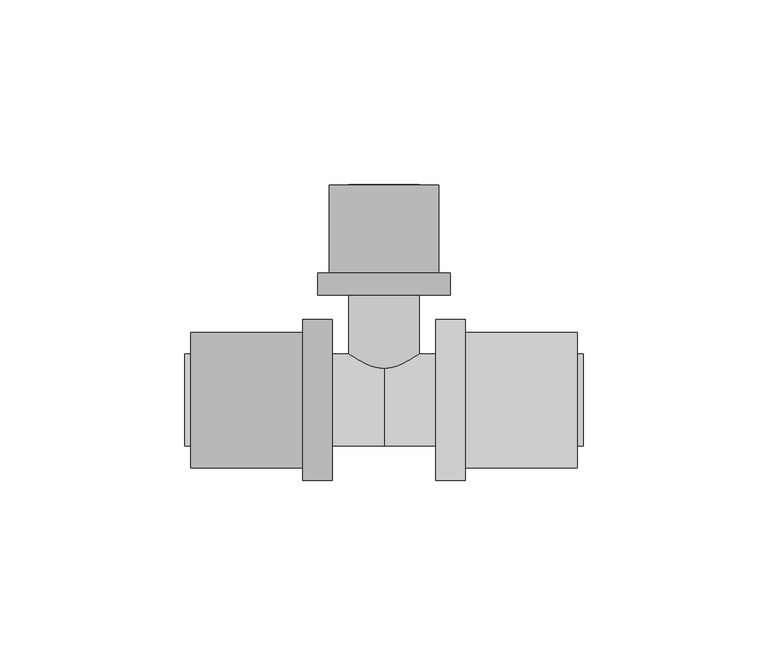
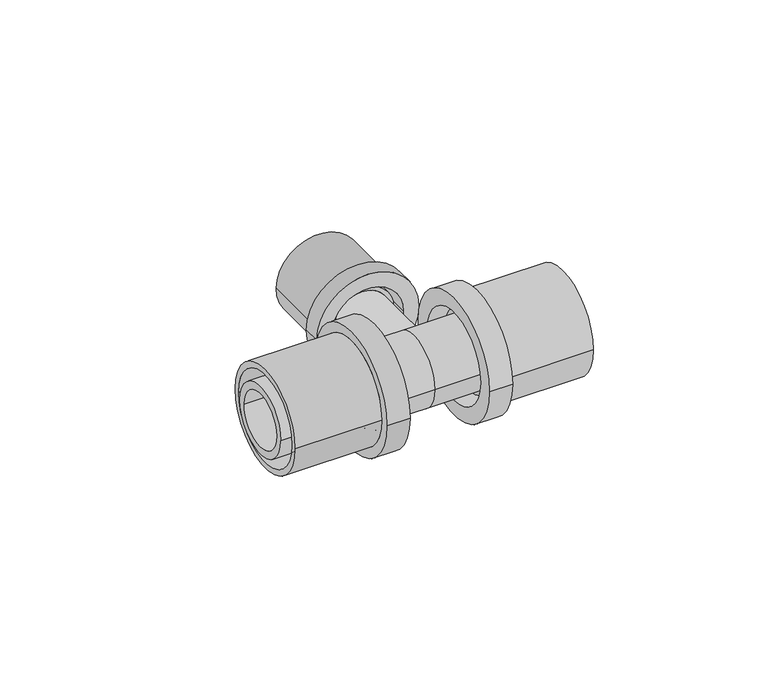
"""IFC4 building model written with IfcOpenShell, lengths in millimetres: pipe fitting geometry, FASTLOC_T-piece_EX+ : FSL T-Piece EX+ AT."""

from ifc_helpers import new_model, si_unit, frame, origin, place, context, project, spatial, polyline, circle_curve, source, transform, mapped, element, save
from ifc_brep_helpers import plane_surface, cylinder_surface, revolved_surface, advanced_brep


def pipe_fitting_29655fe2(model_context):
    return source(origin(), model_context, "Body", "AdvancedBrep", [
        advanced_brep(
        [(22.0, 21.8, 0.0), (22.0, -21.8, 0.0), (14.0, -21.8, 0.0), (14.0, 21.8, 0.0), (52.3, 18.35, 0.0), (52.3, -18.35, 0.0), (22.0, -18.35, 0.0), (22.0, 18.35, 0.0), (14.0, 16.2, 0.0), (14.0, -16.2, 0.0), (52.3, -16.2, 0.0), (52.3, 16.2, 0.0)],
        [
            (0, 1, circle_curve(frame((22.0, 0.0, 0.0), z_axis=(-1.0, 0.0, 0.0), x_axis=(0.0, -1.0, 0.0)), 21.8)),
            (1, 2),
            (2, 3, circle_curve(frame((14.0, 0.0, 0.0), z_axis=(1.0, 0.0, 0.0), x_axis=(0.0, -1.0, 0.0)), 21.8)),
            (3, 0),
            (4, 5, circle_curve(frame((52.3, 0.0, 0.0), z_axis=(-1.0, 0.0, 0.0), x_axis=(0.0, -1.0, 0.0)), 18.35)),
            (5, 6),
            (6, 7, circle_curve(frame((22.0, 0.0, 0.0), z_axis=(1.0, 0.0, 0.0), x_axis=(0.0, -1.0, 0.0)), 18.35)),
            (7, 4),
            (8, 9, circle_curve(frame((14.0, 0.0, 0.0), z_axis=(-1.0, 0.0, 0.0), x_axis=(0.0, -1.0, 0.0)), 16.2)),
            (9, 10),
            (10, 11, circle_curve(frame((52.3, 0.0, 0.0), z_axis=(1.0, 0.0, 0.0), x_axis=(0.0, -1.0, 0.0)), 16.2)),
            (11, 8),
            (1, 0, circle_curve(frame((22.0, 0.0, 0.0), z_axis=(-1.0, 0.0, 0.0), x_axis=(0.0, 1.0, 0.0)), 21.8)),
            (3, 2, circle_curve(frame((14.0, 0.0, 0.0), z_axis=(1.0, 0.0, 0.0), x_axis=(0.0, 1.0, 0.0)), 21.8)),
            (6, 7, circle_curve(frame((22.0, 0.0, 0.0), z_axis=(-1.0, 0.0, 0.0), x_axis=(0.0, 1.0, 0.0)), 18.35)),
            (5, 4, circle_curve(frame((52.3, 0.0, 0.0), z_axis=(-1.0, 0.0, 0.0), x_axis=(0.0, 1.0, 0.0)), 18.35)),
            (10, 11, circle_curve(frame((52.3, 0.0, 0.0), z_axis=(-1.0, 0.0, 0.0), x_axis=(0.0, 1.0, 0.0)), 16.2)),
            (9, 8, circle_curve(frame((14.0, 0.0, 0.0), z_axis=(-1.0, 0.0, 0.0), x_axis=(0.0, 1.0, 0.0)), 16.2)),
        ],
        [
            cylinder_surface(frame((14.0, 0.0, 0.0), z_axis=(1.0, 0.0, 0.0), x_axis=(0.0, -1.0, 0.0)), 21.8),
            cylinder_surface(frame((14.0, 0.0, 0.0), z_axis=(1.0, 0.0, 0.0), x_axis=(0.0, -1.0, 0.0)), 18.35),
            revolved_surface(polyline([(52.3, -16.2, 0.0), (14.0, -16.2, 0.0)]), (14.0, 0.0, 0.0), (1.0, 0.0, 0.0)),
            cylinder_surface(frame((14.0, 0.0, 0.0), z_axis=(1.0, 0.0, 0.0), x_axis=(0.0, 1.0, 0.0)), 21.8),
            plane_surface(frame((22.0, 0.0, 0.0), z_axis=(1.0, 0.0, 0.0), x_axis=(0.0, 1.0, 0.0))),
            cylinder_surface(frame((14.0, 0.0, 0.0), z_axis=(1.0, 0.0, 0.0), x_axis=(0.0, 1.0, 0.0)), 18.35),
            plane_surface(frame((52.3, 0.0, 0.0), z_axis=(1.0, 0.0, 0.0), x_axis=(0.0, 1.0, 0.0))),
            revolved_surface(polyline([(52.3, 16.2, 0.0), (14.0, 16.2, 0.0)]), (14.0, 0.0, 0.0), (1.0, 0.0, 0.0)),
            plane_surface(frame((14.0, 0.0, 0.0), z_axis=(-1.0, 0.0, 0.0), x_axis=(0.0, 1.0, 0.0))),
        ],
        [
            (0, [[1, 2, 3, 4]]),
            (1, [[5, 6, 7, 8]]),
            (2, [[9, 10, 11, 12]]),
            (3, [[13, -4, 14, -2]]),
            (4, [[-13, -1], [15, -7]]),
            (5, [[16, -8, -15, -6]]),
            (6, [[-16, -5], [17, -11]]),
            (7, [[18, -12, -17, -10]]),
            (8, [[-14, -3], [-18, -9]]),
        ],
    ),
        advanced_brep(
        [(-22.0, -21.8, 0.0), (-22.0, 21.8, 0.0), (-14.0, 21.8, 0.0), (-14.0, -21.8, 0.0), (-52.3, -18.35, 0.0), (-52.3, 18.35, 0.0), (-22.0, 18.35, 0.0), (-22.0, -18.35, 0.0), (-14.0, -16.2, 0.0), (-14.0, 16.2, 0.0), (-52.3, 16.2, 0.0), (-52.3, -16.2, 0.0)],
        [
            (0, 1, circle_curve(frame((-22.0, 0.0, 0.0), z_axis=(1.0, 0.0, 0.0), x_axis=(0.0, 1.0, 0.0)), 21.8)),
            (1, 2),
            (2, 3, circle_curve(frame((-14.0, 0.0, 0.0), z_axis=(-1.0, 0.0, 0.0), x_axis=(0.0, 1.0, 0.0)), 21.8)),
            (3, 0),
            (4, 5, circle_curve(frame((-52.3, 0.0, 0.0), z_axis=(1.0, 0.0, 0.0), x_axis=(0.0, 1.0, 0.0)), 18.35)),
            (5, 6),
            (6, 7, circle_curve(frame((-22.0, 0.0, 0.0), z_axis=(-1.0, 0.0, 0.0), x_axis=(0.0, 1.0, 0.0)), 18.35)),
            (7, 4),
            (8, 9, circle_curve(frame((-14.0, 0.0, 0.0), z_axis=(1.0, 0.0, 0.0), x_axis=(0.0, 1.0, 0.0)), 16.2)),
            (9, 10),
            (10, 11, circle_curve(frame((-52.3, 0.0, 0.0), z_axis=(-1.0, 0.0, 0.0), x_axis=(0.0, 1.0, 0.0)), 16.2)),
            (11, 8),
            (1, 0, circle_curve(frame((-22.0, 0.0, 0.0), z_axis=(1.0, 0.0, 0.0), x_axis=(0.0, -1.0, 0.0)), 21.8)),
            (3, 2, circle_curve(frame((-14.0, 0.0, 0.0), z_axis=(-1.0, 0.0, 0.0), x_axis=(0.0, -1.0, 0.0)), 21.8)),
            (6, 7, circle_curve(frame((-22.0, 0.0, 0.0), z_axis=(1.0, 0.0, 0.0), x_axis=(0.0, -1.0, 0.0)), 18.35)),
            (5, 4, circle_curve(frame((-52.3, 0.0, 0.0), z_axis=(1.0, 0.0, 0.0), x_axis=(0.0, -1.0, 0.0)), 18.35)),
            (10, 11, circle_curve(frame((-52.3, 0.0, 0.0), z_axis=(1.0, 0.0, 0.0), x_axis=(0.0, -1.0, 0.0)), 16.2)),
            (9, 8, circle_curve(frame((-14.0, 0.0, 0.0), z_axis=(1.0, 0.0, 0.0), x_axis=(0.0, -1.0, 0.0)), 16.2)),
        ],
        [
            cylinder_surface(frame((-14.0, 0.0, 0.0), z_axis=(-1.0, 0.0, 0.0), x_axis=(0.0, 1.0, 0.0)), 21.8),
            cylinder_surface(frame((-14.0, 0.0, 0.0), z_axis=(-1.0, 0.0, 0.0), x_axis=(0.0, 1.0, 0.0)), 18.35),
            revolved_surface(polyline([(-52.3, 16.2, 0.0), (-14.0, 16.2, 0.0)]), (-14.0, 0.0, 0.0), (-1.0, 0.0, 0.0)),
            cylinder_surface(frame((-14.0, 0.0, 0.0), z_axis=(-1.0, 0.0, 0.0), x_axis=(0.0, -1.0, 0.0)), 21.8),
            plane_surface(frame((-22.0, 0.0, 0.0), z_axis=(-1.0, 0.0, 0.0), x_axis=(0.0, -1.0, 0.0))),
            cylinder_surface(frame((-14.0, 0.0, 0.0), z_axis=(-1.0, 0.0, 0.0), x_axis=(0.0, -1.0, 0.0)), 18.35),
            plane_surface(frame((-52.3, 0.0, 0.0), z_axis=(-1.0, 0.0, 0.0), x_axis=(0.0, -1.0, 0.0))),
            revolved_surface(polyline([(-52.3, -16.2, 0.0), (-14.0, -16.2, 0.0)]), (-14.0, 0.0, 0.0), (-1.0, 0.0, 0.0)),
            plane_surface(frame((-14.0, 0.0, 0.0), z_axis=(1.0, 0.0, 0.0), x_axis=(0.0, -1.0, 0.0))),
        ],
        [
            (0, [[1, 2, 3, 4]]),
            (1, [[5, 6, 7, 8]]),
            (2, [[9, 10, 11, 12]]),
            (3, [[13, -4, 14, -2]]),
            (4, [[-13, -1], [15, -7]]),
            (5, [[16, -8, -15, -6]]),
            (6, [[-16, -5], [17, -11]]),
            (7, [[18, -12, -17, -10]]),
            (8, [[-14, -3], [-18, -9]]),
        ],
    ),
        advanced_brep(
        [(-18.0, 34.4, 0.0), (18.0, 34.4, 0.0), (18.0, 28.4, 0.0), (-18.0, 28.4, 0.0), (-14.85, 58.2, 0.0), (14.85, 58.2, 0.0), (14.85, 34.4, 0.0), (-14.85, 34.4, 0.0), (-12.65, 28.4, 0.0), (12.65, 28.4, 0.0), (12.65, 58.2, 0.0), (-12.65, 58.2, 0.0)],
        [
            (0, 1, circle_curve(frame((0.0, 34.4, 0.0), z_axis=(0.0, -1.0, 0.0), x_axis=(1.0, 0.0, 0.0)), 18.0)),
            (1, 2),
            (2, 3, circle_curve(frame((0.0, 28.4, 0.0), z_axis=(0.0, 1.0, 0.0), x_axis=(1.0, 0.0, 0.0)), 18.0)),
            (3, 0),
            (4, 5, circle_curve(frame((0.0, 58.2, 0.0), z_axis=(0.0, -1.0, 0.0), x_axis=(1.0, 0.0, 0.0)), 14.85)),
            (5, 6),
            (6, 7, circle_curve(frame((0.0, 34.4, 0.0), z_axis=(0.0, 1.0, 0.0), x_axis=(1.0, 0.0, 0.0)), 14.85)),
            (7, 4),
            (8, 9, circle_curve(frame((0.0, 28.4, 0.0), z_axis=(0.0, -1.0, 0.0), x_axis=(1.0, 0.0, 0.0)), 12.65)),
            (9, 10),
            (10, 11, circle_curve(frame((0.0, 58.2, 0.0), z_axis=(0.0, 1.0, 0.0), x_axis=(1.0, 0.0, 0.0)), 12.65)),
            (11, 8),
            (1, 0, circle_curve(frame((0.0, 34.4, 0.0), z_axis=(0.0, -1.0, 0.0), x_axis=(-1.0, 0.0, 0.0)), 18.0)),
            (3, 2, circle_curve(frame((0.0, 28.4, 0.0), z_axis=(0.0, 1.0, 0.0), x_axis=(-1.0, 0.0, 0.0)), 18.0)),
            (6, 7, circle_curve(frame((0.0, 34.4, 0.0), z_axis=(0.0, -1.0, 0.0), x_axis=(-1.0, 0.0, 0.0)), 14.85)),
            (5, 4, circle_curve(frame((0.0, 58.2, 0.0), z_axis=(0.0, -1.0, 0.0), x_axis=(-1.0, 0.0, 0.0)), 14.85)),
            (10, 11, circle_curve(frame((0.0, 58.2, 0.0), z_axis=(0.0, -1.0, 0.0), x_axis=(-1.0, 0.0, 0.0)), 12.65)),
            (9, 8, circle_curve(frame((0.0, 28.4, 0.0), z_axis=(0.0, -1.0, 0.0), x_axis=(-1.0, 0.0, 0.0)), 12.65)),
        ],
        [
            cylinder_surface(frame((0.0, 28.4, 0.0), z_axis=(0.0, 1.0, 0.0), x_axis=(1.0, 0.0, 0.0)), 18.0),
            cylinder_surface(frame((0.0, 28.4, 0.0), z_axis=(0.0, 1.0, 0.0), x_axis=(1.0, 0.0, 0.0)), 14.85),
            revolved_surface(polyline([(12.65, 58.2, 0.0), (12.65, 28.4, 0.0)]), (0.0, 28.4, 0.0), (0.0, 1.0, 0.0)),
            cylinder_surface(frame((0.0, 28.4, 0.0), z_axis=(0.0, 1.0, 0.0), x_axis=(-1.0, 0.0, 0.0)), 18.0),
            plane_surface(frame((0.0, 34.4, 0.0), z_axis=(0.0, 1.0, 0.0), x_axis=(-1.0, 0.0, 0.0))),
            cylinder_surface(frame((0.0, 28.4, 0.0), z_axis=(0.0, 1.0, 0.0), x_axis=(-1.0, 0.0, 0.0)), 14.85),
            plane_surface(frame((0.0, 58.2, 0.0), z_axis=(0.0, 1.0, 0.0), x_axis=(-1.0, 0.0, 0.0))),
            revolved_surface(polyline([(-12.65, 58.2, 0.0), (-12.65, 28.4, 0.0)]), (0.0, 28.4, 0.0), (0.0, 1.0, 0.0)),
            plane_surface(frame((0.0, 28.4, 0.0), z_axis=(0.0, -1.0, 0.0), x_axis=(-1.0, 0.0, 0.0))),
        ],
        [
            (0, [[1, 2, 3, 4]]),
            (1, [[5, 6, 7, 8]]),
            (2, [[9, 10, 11, 12]]),
            (3, [[13, -4, 14, -2]]),
            (4, [[-13, -1], [15, -7]]),
            (5, [[16, -8, -15, -6]]),
            (6, [[-16, -5], [17, -11]]),
            (7, [[18, -12, -17, -10]]),
            (8, [[-14, -3], [-18, -9]]),
        ],
    ),
        advanced_brep(
        [(0.0, 12.5, 0.0), (0.0, -12.5, 0.0), (-19.0, -12.5, 0.0), (-19.0, 12.5, 0.0), (19.0, 12.5, 0.0), (19.0, -12.5, 0.0), (22.0, 14.1, 0.0), (22.0, -14.1, 0.0), (19.0, -14.1, 0.0), (19.0, 14.1, 0.0), (54.0, 12.5, 0.0), (54.0, -12.5, 0.0), (22.0, -12.5, 0.0), (22.0, 12.5, 0.0), (-54.0, 9.85, 0.0), (-54.0, -9.85, 0.0), (54.0, -9.85, 0.0), (54.0, 9.85, 0.0), (-22.0, 12.5, 0.0), (-22.0, -12.5, 0.0), (-54.0, -12.5, 0.0), (-54.0, 12.5, 0.0), (-19.0, 14.1, 0.0), (-19.0, -14.1, 0.0), (-22.0, -14.1, 0.0), (-22.0, 14.1, 0.0)],
        [
            (0, 1, circle_curve(frame((0.0, 0.0, 0.0), z_axis=(-1.0, 0.0, 0.0), x_axis=(0.0, -1.0, 0.0)), 12.5)),
            (1, 2),
            (2, 3, circle_curve(frame((-19.0, 0.0, 0.0), z_axis=(1.0, 0.0, 0.0), x_axis=(0.0, -1.0, 0.0)), 12.5)),
            (3, 0),
            (4, 5, circle_curve(frame((19.0, 0.0, 0.0), z_axis=(-1.0, 0.0, 0.0), x_axis=(0.0, -1.0, 0.0)), 12.5)),
            (5, 1),
            (0, 4),
            (6, 7, circle_curve(frame((22.0, 0.0, 0.0), z_axis=(-1.0, 0.0, 0.0), x_axis=(0.0, -1.0, 0.0)), 14.1)),
            (7, 8),
            (8, 9, circle_curve(frame((19.0, 0.0, 0.0), z_axis=(1.0, 0.0, 0.0), x_axis=(0.0, -1.0, 0.0)), 14.1)),
            (9, 6),
            (10, 11, circle_curve(frame((54.0, 0.0, 0.0), z_axis=(-1.0, 0.0, 0.0), x_axis=(0.0, -1.0, 0.0)), 12.5)),
            (11, 12),
            (12, 13, circle_curve(frame((22.0, 0.0, 0.0), z_axis=(1.0, 0.0, 0.0), x_axis=(0.0, -1.0, 0.0)), 12.5)),
            (13, 10),
            (14, 15, circle_curve(frame((-54.0, 0.0, 0.0), z_axis=(-1.0, 0.0, 0.0), x_axis=(0.0, -1.0, 0.0)), 9.85)),
            (15, 16),
            (16, 17, circle_curve(frame((54.0, 0.0, 0.0), z_axis=(1.0, 0.0, 0.0), x_axis=(0.0, -1.0, 0.0)), 9.85)),
            (17, 14),
            (18, 19, circle_curve(frame((-22.0, 0.0, 0.0), z_axis=(-1.0, 0.0, 0.0), x_axis=(0.0, -1.0, 0.0)), 12.5)),
            (19, 20),
            (20, 21, circle_curve(frame((-54.0, 0.0, 0.0), z_axis=(1.0, 0.0, 0.0), x_axis=(0.0, -1.0, 0.0)), 12.5)),
            (21, 18),
            (22, 23, circle_curve(frame((-19.0, 0.0, 0.0), z_axis=(-1.0, 0.0, 0.0), x_axis=(0.0, -1.0, 0.0)), 14.1)),
            (23, 24),
            (24, 25, circle_curve(frame((-22.0, 0.0, 0.0), z_axis=(1.0, 0.0, 0.0), x_axis=(0.0, -1.0, 0.0)), 14.1)),
            (25, 22),
            (22, 23, circle_curve(frame((-19.0, 0.0, 0.0), z_axis=(1.0, 0.0, 0.0), x_axis=(0.0, 1.0, 0.0)), 14.1)),
            (2, 3, circle_curve(frame((-19.0, 0.0, 0.0), z_axis=(-1.0, 0.0, 0.0), x_axis=(0.0, 1.0, 0.0)), 12.5)),
            (1, 0, circle_curve(frame((0.0, 0.0, 0.0), z_axis=(-1.0, 0.0, 0.0), x_axis=(0.0, 1.0, 0.0)), 12.5)),
            (5, 4, circle_curve(frame((19.0, 0.0, 0.0), z_axis=(-1.0, 0.0, 0.0), x_axis=(0.0, 1.0, 0.0)), 12.5)),
            (8, 9, circle_curve(frame((19.0, 0.0, 0.0), z_axis=(-1.0, 0.0, 0.0), x_axis=(0.0, 1.0, 0.0)), 14.1)),
            (7, 6, circle_curve(frame((22.0, 0.0, 0.0), z_axis=(-1.0, 0.0, 0.0), x_axis=(0.0, 1.0, 0.0)), 14.1)),
            (12, 13, circle_curve(frame((22.0, 0.0, 0.0), z_axis=(-1.0, 0.0, 0.0), x_axis=(0.0, 1.0, 0.0)), 12.5)),
            (11, 10, circle_curve(frame((54.0, 0.0, 0.0), z_axis=(-1.0, 0.0, 0.0), x_axis=(0.0, 1.0, 0.0)), 12.5)),
            (16, 17, circle_curve(frame((54.0, 0.0, 0.0), z_axis=(-1.0, 0.0, 0.0), x_axis=(0.0, 1.0, 0.0)), 9.85)),
            (15, 14, circle_curve(frame((-54.0, 0.0, 0.0), z_axis=(-1.0, 0.0, 0.0), x_axis=(0.0, 1.0, 0.0)), 9.85)),
            (20, 21, circle_curve(frame((-54.0, 0.0, 0.0), z_axis=(-1.0, 0.0, 0.0), x_axis=(0.0, 1.0, 0.0)), 12.5)),
            (19, 18, circle_curve(frame((-22.0, 0.0, 0.0), z_axis=(-1.0, 0.0, 0.0), x_axis=(0.0, 1.0, 0.0)), 12.5)),
            (24, 25, circle_curve(frame((-22.0, 0.0, 0.0), z_axis=(-1.0, 0.0, 0.0), x_axis=(0.0, 1.0, 0.0)), 14.1)),
        ],
        [
            cylinder_surface(frame((0.0, 0.0, 0.0), z_axis=(1.0, 0.0, 0.0), x_axis=(0.0, -1.0, 0.0)), 12.5),
            cylinder_surface(frame((0.0, 0.0, 0.0), z_axis=(1.0, 0.0, 0.0), x_axis=(0.0, -1.0, 0.0)), 14.1),
            revolved_surface(polyline([(54.0, -9.85, 0.0), (-54.0, -9.85, 0.0)]), (0.0, 0.0, 0.0), (1.0, 0.0, 0.0)),
            plane_surface(frame((-19.0, 0.0, 0.0), z_axis=(1.0, 0.0, 0.0), x_axis=(0.0, 1.0, 0.0))),
            cylinder_surface(frame((0.0, 0.0, 0.0), z_axis=(1.0, 0.0, 0.0), x_axis=(0.0, 1.0, 0.0)), 12.5),
            plane_surface(frame((19.0, 0.0, 0.0), z_axis=(-1.0, 0.0, 0.0), x_axis=(0.0, 1.0, 0.0))),
            cylinder_surface(frame((0.0, 0.0, 0.0), z_axis=(1.0, 0.0, 0.0), x_axis=(0.0, 1.0, 0.0)), 14.1),
            plane_surface(frame((22.0, 0.0, 0.0), z_axis=(1.0, 0.0, 0.0), x_axis=(0.0, 1.0, 0.0))),
            plane_surface(frame((54.0, 0.0, 0.0), z_axis=(1.0, 0.0, 0.0), x_axis=(0.0, 1.0, 0.0))),
            revolved_surface(polyline([(54.0, 9.85, 0.0), (-54.0, 9.85, 0.0)]), (0.0, 0.0, 0.0), (1.0, 0.0, 0.0)),
            plane_surface(frame((-54.0, 0.0, 0.0), z_axis=(-1.0, 0.0, 0.0), x_axis=(0.0, 1.0, 0.0))),
            plane_surface(frame((-22.0, 0.0, 0.0), z_axis=(-1.0, 0.0, 0.0), x_axis=(0.0, 1.0, 0.0))),
        ],
        [
            (0, [[1, 2, 3, 4]]),
            (0, [[5, 6, -1, 7]]),
            (1, [[8, 9, 10, 11]]),
            (0, [[12, 13, 14, 15]]),
            (2, [[16, 17, 18, 19]]),
            (0, [[20, 21, 22, 23]]),
            (1, [[24, 25, 26, 27]]),
            (3, [[28, -24], [29, -3]]),
            (4, [[30, -4, -29, -2]]),
            (4, [[31, -7, -30, -6]]),
            (5, [[32, -10], [-31, -5]]),
            (6, [[33, -11, -32, -9]]),
            (7, [[-33, -8], [34, -14]]),
            (4, [[35, -15, -34, -13]]),
            (8, [[-35, -12], [36, -18]]),
            (9, [[37, -19, -36, -17]]),
            (10, [[38, -22], [-37, -16]]),
            (4, [[39, -23, -38, -21]]),
            (11, [[40, -26], [-39, -20]]),
            (6, [[-28, -27, -40, -25]]),
        ],
    ),
        advanced_brep(
        [(7.35, 58.4, 0.0), (-7.35, 58.4, 0.0), (-7.35, 0.0, 0.0), (7.35, 0.0, 0.0), (9.6, 0.0, 0.0), (-9.6, 0.0, 0.0), (-9.6, 31.6, 0.0), (9.6, 31.6, 0.0), (11.1, 31.6, 0.0), (-11.1, 31.6, 0.0), (-11.1, 34.4, 0.0), (11.1, 34.4, 0.0), (9.6, 34.4, 0.0), (-9.6, 34.4, 0.0), (-9.6, 58.4, 0.0), (9.6, 58.4, 0.0)],
        [
            (0, 1, circle_curve(frame((0.0, 58.4, 0.0), z_axis=(0.0, 1.0, 0.0), x_axis=(-1.0, 0.0, 0.0)), 7.35)),
            (1, 2),
            (2, 3, circle_curve(frame((0.0, 0.0, 0.0), z_axis=(0.0, -1.0, 0.0), x_axis=(-1.0, 0.0, 0.0)), 7.35)),
            (3, 0),
            (4, 5, circle_curve(frame((0.0, 0.0, 0.0), z_axis=(0.0, 1.0, 0.0), x_axis=(-1.0, 0.0, 0.0)), 9.6)),
            (5, 6),
            (6, 7, circle_curve(frame((0.0, 31.6, 0.0), z_axis=(0.0, -1.0, 0.0), x_axis=(-1.0, 0.0, 0.0)), 9.6)),
            (7, 4),
            (8, 9, circle_curve(frame((0.0, 31.6, 0.0), z_axis=(0.0, 1.0, 0.0), x_axis=(-1.0, 0.0, 0.0)), 11.1)),
            (9, 10),
            (10, 11, circle_curve(frame((0.0, 34.4, 0.0), z_axis=(0.0, -1.0, 0.0), x_axis=(-1.0, 0.0, 0.0)), 11.1)),
            (11, 8),
            (12, 13, circle_curve(frame((0.0, 34.4, 0.0), z_axis=(0.0, 1.0, 0.0), x_axis=(-1.0, 0.0, 0.0)), 9.6)),
            (13, 14),
            (14, 15, circle_curve(frame((0.0, 58.4, 0.0), z_axis=(0.0, -1.0, 0.0), x_axis=(-1.0, 0.0, 0.0)), 9.6)),
            (15, 12),
            (1, 0, circle_curve(frame((0.0, 58.4, 0.0), z_axis=(0.0, 1.0, 0.0), x_axis=(1.0, 0.0, 0.0)), 7.35)),
            (3, 2, circle_curve(frame((0.0, 0.0, 0.0), z_axis=(0.0, -1.0, 0.0), x_axis=(1.0, 0.0, 0.0)), 7.35)),
            (4, 5, circle_curve(frame((0.0, 0.0, 0.0), z_axis=(0.0, -1.0, 0.0), x_axis=(1.0, 0.0, 0.0)), 9.6)),
            (7, 6, circle_curve(frame((0.0, 31.6, 0.0), z_axis=(0.0, -1.0, 0.0), x_axis=(1.0, 0.0, 0.0)), 9.6)),
            (8, 9, circle_curve(frame((0.0, 31.6, 0.0), z_axis=(0.0, -1.0, 0.0), x_axis=(1.0, 0.0, 0.0)), 11.1)),
            (11, 10, circle_curve(frame((0.0, 34.4, 0.0), z_axis=(0.0, -1.0, 0.0), x_axis=(1.0, 0.0, 0.0)), 11.1)),
            (12, 13, circle_curve(frame((0.0, 34.4, 0.0), z_axis=(0.0, -1.0, 0.0), x_axis=(1.0, 0.0, 0.0)), 9.6)),
            (15, 14, circle_curve(frame((0.0, 58.4, 0.0), z_axis=(0.0, -1.0, 0.0), x_axis=(1.0, 0.0, 0.0)), 9.6)),
        ],
        [
            revolved_surface(polyline([(-7.35, 0.0, 0.0), (-7.35, 58.4, 0.0)]), (0.0, 0.0, 0.0), (0.0, -1.0, 0.0)),
            cylinder_surface(frame((0.0, 0.0, 0.0), z_axis=(0.0, -1.0, 0.0), x_axis=(-1.0, 0.0, 0.0)), 9.6),
            cylinder_surface(frame((0.0, 0.0, 0.0), z_axis=(0.0, -1.0, 0.0), x_axis=(-1.0, 0.0, 0.0)), 11.1),
            revolved_surface(polyline([(7.35, 0.0, 0.0), (7.35, 58.4, 0.0)]), (0.0, 0.0, 0.0), (0.0, -1.0, 0.0)),
            plane_surface(frame((0.0, 0.0, 0.0), z_axis=(0.0, -1.0, 0.0), x_axis=(1.0, 0.0, 0.0))),
            cylinder_surface(frame((0.0, 0.0, 0.0), z_axis=(0.0, -1.0, 0.0), x_axis=(1.0, 0.0, 0.0)), 9.6),
            plane_surface(frame((0.0, 31.6, 0.0), z_axis=(0.0, -1.0, 0.0), x_axis=(1.0, 0.0, 0.0))),
            cylinder_surface(frame((0.0, 0.0, 0.0), z_axis=(0.0, -1.0, 0.0), x_axis=(1.0, 0.0, 0.0)), 11.1),
            plane_surface(frame((0.0, 34.4, 0.0), z_axis=(0.0, 1.0, 0.0), x_axis=(1.0, 0.0, 0.0))),
            plane_surface(frame((0.0, 58.4, 0.0), z_axis=(0.0, 1.0, 0.0), x_axis=(1.0, 0.0, 0.0))),
        ],
        [
            (0, [[1, 2, 3, 4]]),
            (1, [[5, 6, 7, 8]]),
            (2, [[9, 10, 11, 12]]),
            (1, [[13, 14, 15, 16]]),
            (3, [[17, -4, 18, -2]]),
            (4, [[19, -5], [-18, -3]]),
            (5, [[-19, -8, 20, -6]]),
            (6, [[21, -9], [-20, -7]]),
            (7, [[-21, -12, 22, -10]]),
            (8, [[-22, -11], [23, -13]]),
            (5, [[-23, -16, 24, -14]]),
            (9, [[-24, -15], [-17, -1]]),
        ],
    ),
    ])


if __name__ == "__main__":
    model = new_model("IFC4")
    model_context = context("Model", 3, world=origin())
    ifc_project = project(units=[si_unit("LENGTHUNIT", "METRE", prefix="MILLI")], contexts=[model_context])
    site = spatial("IfcSite", under=ifc_project)
    building = spatial("IfcBuilding", under=site)
    placement = place(None, origin())
    pipe_fitting_shape = pipe_fitting_29655fe2(model_context)
    element("IfcPipeFitting", 1, ObjectType="FASTLOC_T-piece_EX+ : FSL T-Piece EX+ AT", at=placement, inside=building, context=model_context, shape_type="MappedRepresentation", body=[
        mapped(pipe_fitting_shape, transform((0.0, 0.0, 0.0), x_axis=(1.0, 0.0, 0.0), y_axis=(0.0, 1.0, 0.0), z_axis=(0.0, 0.0, 1.0))),
    ])
    save(model, "model.ifc")
